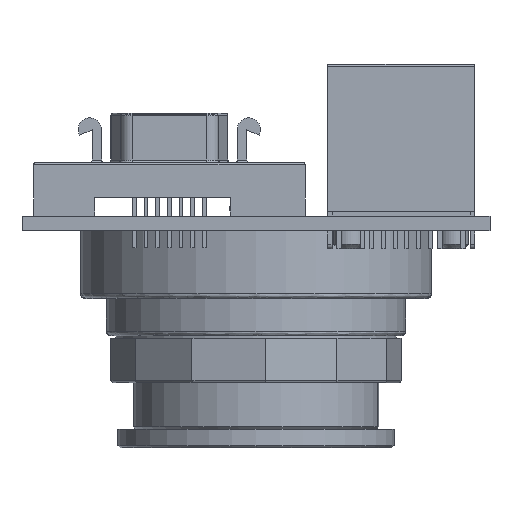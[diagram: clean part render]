
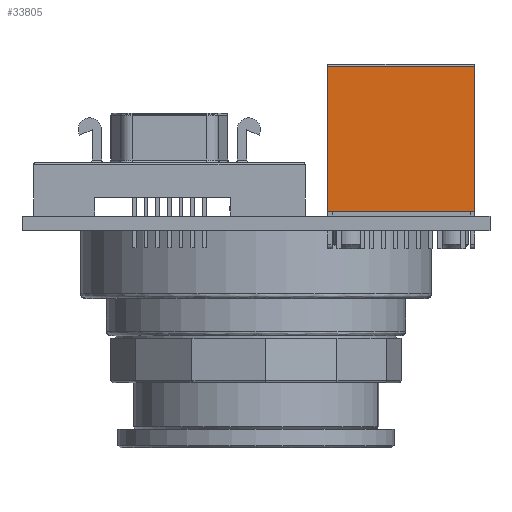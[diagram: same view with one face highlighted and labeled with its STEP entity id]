
A CAD part, front view. The second image highlights one B-rep face of the part: STEP entity #33805.
In plain terms, the highlighted planar face has unit normal (0, -1, 0).
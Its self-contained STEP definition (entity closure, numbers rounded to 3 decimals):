
#300 = CARTESIAN_POINT ( 'NONE',  ( -8.001, -6.604, 15.748 ) ) ;
#978 = LINE ( 'NONE', #32202, #24252 ) ;
#1944 = DIRECTION ( 'NONE',  ( 0., 0., -1. ) ) ;
#4092 = CARTESIAN_POINT ( 'NONE',  ( 8.001, -6.604, 15.748 ) ) ;
#4681 = EDGE_LOOP ( 'NONE', ( #34332, #51828, #46819, #37135 ) ) ;
#4725 = VECTOR ( 'NONE', #1944, 1000. ) ;
#6250 = DIRECTION ( 'NONE',  ( 1., 0., 0. ) ) ;
#6538 = CARTESIAN_POINT ( 'NONE',  ( -8.001, -6.604, 12.954 ) ) ;
#7815 = LINE ( 'NONE', #23208, #51926 ) ;
#9518 = CARTESIAN_POINT ( 'NONE',  ( 8.001, -6.604, 12.954 ) ) ;
#10900 = DIRECTION ( 'NONE',  ( -1., 0., 0. ) ) ;
#12423 = VECTOR ( 'NONE', #39783, 1000. ) ;
#13900 = CARTESIAN_POINT ( 'NONE',  ( 8.001, -6.604, 0. ) ) ;
#17765 = VERTEX_POINT ( 'NONE', #46969 ) ;
#19410 = EDGE_CURVE ( 'NONE', #50554, #26797, #7815, .T. ) ;
#22085 = DIRECTION ( 'NONE',  ( 1., 0., 0. ) ) ;
#23208 = CARTESIAN_POINT ( 'NONE',  ( -8.001, -6.604, 15.748 ) ) ;
#23753 = CARTESIAN_POINT ( 'NONE',  ( -8.001, -6.604, 12.954 ) ) ;
#24252 = VECTOR ( 'NONE', #6250, 1000. ) ;
#26797 = VERTEX_POINT ( 'NONE', #4092 ) ;
#27230 = AXIS2_PLACEMENT_3D ( 'NONE', #6538, #36769, #10900 ) ;
#27857 = LINE ( 'NONE', #23753, #4725 ) ;
#27949 = PLANE ( 'NONE',  #27230 ) ;
#32202 = CARTESIAN_POINT ( 'NONE',  ( -8.001, -6.604, 0. ) ) ;
#33805 = ADVANCED_FACE ( 'NONE', ( #36130 ), #27949, .F. ) ;
#34332 = ORIENTED_EDGE ( 'NONE', *, *, #19410, .F. ) ;
#36130 = FACE_OUTER_BOUND ( 'NONE', #4681, .T. ) ;
#36238 = EDGE_CURVE ( 'NONE', #50554, #17765, #27857, .T. ) ;
#36769 = DIRECTION ( 'NONE',  ( 0., 1., 0. ) ) ;
#37135 = ORIENTED_EDGE ( 'NONE', *, *, #40825, .F. ) ;
#39783 = DIRECTION ( 'NONE',  ( 0., 0., -1. ) ) ;
#40825 = EDGE_CURVE ( 'NONE', #26797, #54000, #45444, .T. ) ;
#44726 = EDGE_CURVE ( 'NONE', #17765, #54000, #978, .T. ) ;
#45444 = LINE ( 'NONE', #9518, #12423 ) ;
#46819 = ORIENTED_EDGE ( 'NONE', *, *, #44726, .T. ) ;
#46969 = CARTESIAN_POINT ( 'NONE',  ( -8.001, -6.604, 0. ) ) ;
#50554 = VERTEX_POINT ( 'NONE', #300 ) ;
#51828 = ORIENTED_EDGE ( 'NONE', *, *, #36238, .T. ) ;
#51926 = VECTOR ( 'NONE', #22085, 1000. ) ;
#54000 = VERTEX_POINT ( 'NONE', #13900 ) ;
